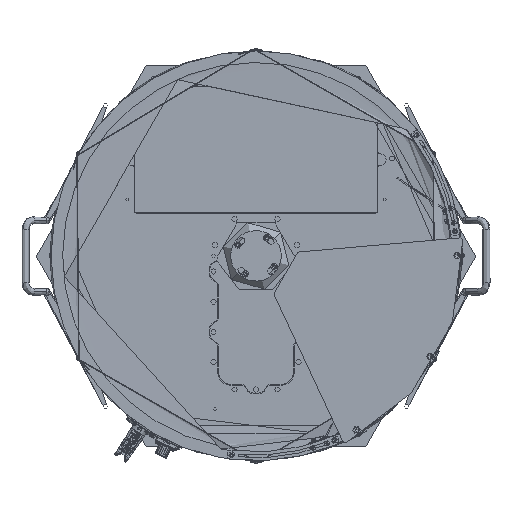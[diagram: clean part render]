
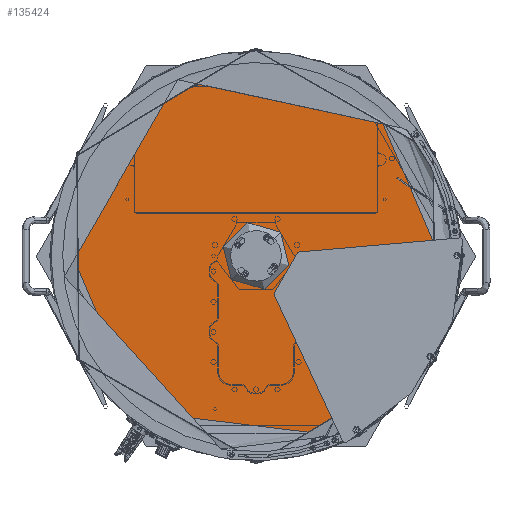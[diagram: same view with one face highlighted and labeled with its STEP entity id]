
A CAD part, top view. The second image highlights one B-rep face of the part: STEP entity #135424.
In plain terms, the highlighted planar face has unit normal (0, 0, 1) as drawn and (0, 0, -1) by its records, which use the part's own axes.
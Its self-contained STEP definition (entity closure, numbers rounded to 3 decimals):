
#21936 = CIRCLE ( 'NONE', #325734, 42.6 ) ;
#30642 = DIRECTION ( 'NONE',  ( 0., 0., 1. ) ) ;
#33458 = AXIS2_PLACEMENT_3D ( 'NONE', #355957, #37894, #100656 ) ;
#37894 = DIRECTION ( 'NONE',  ( 0., 0., 1. ) ) ;
#40026 = CARTESIAN_POINT ( 'NONE',  ( 0., 0., 0. ) ) ;
#47903 = VERTEX_POINT ( 'NONE', #384538 ) ;
#50192 = EDGE_CURVE ( 'NONE', #47903, #156251, #21936, .T. ) ;
#100656 = DIRECTION ( 'NONE',  ( 1., 0., 0. ) ) ;
#103041 = ORIENTED_EDGE ( 'NONE', *, *, #440746, .T. ) ;
#105558 = FACE_OUTER_BOUND ( 'NONE', #384208, .T. ) ;
#127203 = AXIS2_PLACEMENT_3D ( 'NONE', #427476, #30642, #385843 ) ;
#134287 = EDGE_CURVE ( 'NONE', #219673, #282682, #357477, .T. ) ;
#135424 = ADVANCED_FACE ( 'NONE', ( #105558, #281977 ), #198520, .F. ) ;
#144050 = ORIENTED_EDGE ( 'NONE', *, *, #134287, .F. ) ;
#156251 = VERTEX_POINT ( 'NONE', #412259 ) ;
#172270 = ORIENTED_EDGE ( 'NONE', *, *, #50192, .T. ) ;
#196477 = CIRCLE ( 'NONE', #33458, 42.6 ) ;
#198520 = PLANE ( 'NONE',  #388584 ) ;
#219673 = VERTEX_POINT ( 'NONE', #397827 ) ;
#245774 = CIRCLE ( 'NONE', #127203, 328. ) ;
#251681 = CARTESIAN_POINT ( 'NONE',  ( 0., 0., 0. ) ) ;
#271056 = DIRECTION ( 'NONE',  ( 1., 0., 0. ) ) ;
#275639 = CARTESIAN_POINT ( 'NONE',  ( 0., 0., 0. ) ) ;
#279134 = CARTESIAN_POINT ( 'NONE',  ( 328., 0., 0. ) ) ;
#281977 = FACE_BOUND ( 'NONE', #434591, .T. ) ;
#282682 = VERTEX_POINT ( 'NONE', #279134 ) ;
#286130 = DIRECTION ( 'NONE',  ( 0., 0., 1. ) ) ;
#314444 = DIRECTION ( 'NONE',  ( 1., 0., 0. ) ) ;
#325734 = AXIS2_PLACEMENT_3D ( 'NONE', #275639, #384719, #271056 ) ;
#327815 = DIRECTION ( 'NONE',  ( 1., 0., 0. ) ) ;
#347547 = ORIENTED_EDGE ( 'NONE', *, *, #403450, .F. ) ;
#355957 = CARTESIAN_POINT ( 'NONE',  ( 0., 0., 0. ) ) ;
#357477 = CIRCLE ( 'NONE', #409514, 328. ) ;
#384208 = EDGE_LOOP ( 'NONE', ( #144050, #347547 ) ) ;
#384538 = CARTESIAN_POINT ( 'NONE',  ( 42.6, 0., 0. ) ) ;
#384719 = DIRECTION ( 'NONE',  ( 0., 0., 1. ) ) ;
#385843 = DIRECTION ( 'NONE',  ( 1., 0., 0. ) ) ;
#388584 = AXIS2_PLACEMENT_3D ( 'NONE', #251681, #421241, #314444 ) ;
#397827 = CARTESIAN_POINT ( 'NONE',  ( -328., 0., 0. ) ) ;
#403450 = EDGE_CURVE ( 'NONE', #282682, #219673, #245774, .T. ) ;
#409514 = AXIS2_PLACEMENT_3D ( 'NONE', #40026, #286130, #327815 ) ;
#412259 = CARTESIAN_POINT ( 'NONE',  ( -42.6, 0., 0. ) ) ;
#421241 = DIRECTION ( 'NONE',  ( 0., 0., 1. ) ) ;
#427476 = CARTESIAN_POINT ( 'NONE',  ( 0., 0., 0. ) ) ;
#434591 = EDGE_LOOP ( 'NONE', ( #103041, #172270 ) ) ;
#440746 = EDGE_CURVE ( 'NONE', #156251, #47903, #196477, .T. ) ;
